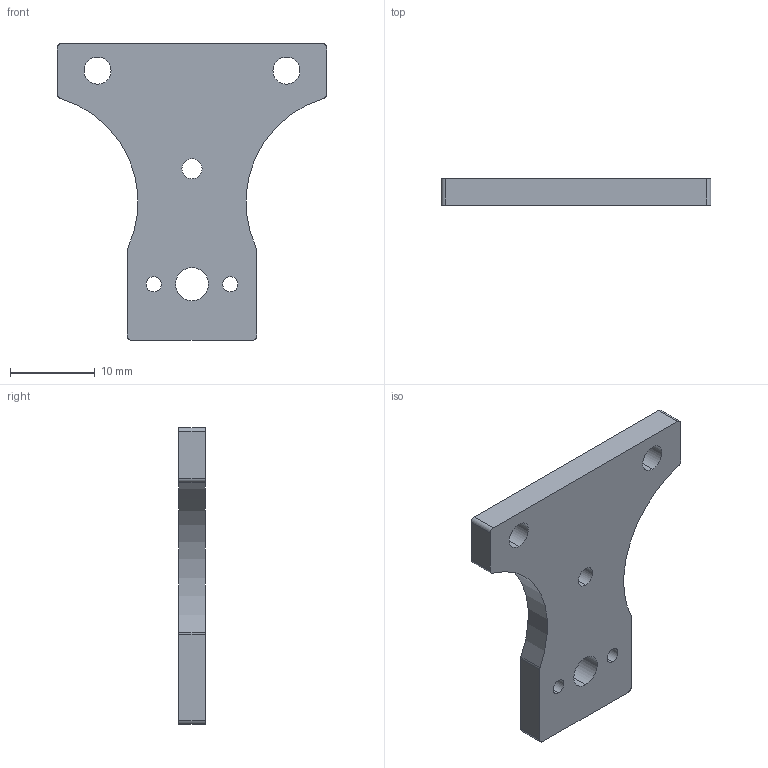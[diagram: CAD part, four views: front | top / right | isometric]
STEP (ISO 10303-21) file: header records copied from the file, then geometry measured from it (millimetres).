
FILE_DESCRIPTION (( 'STEP AP214' ), '1' );
FILE_NAME ('drive shaft support.STEP', '2019-10-04T00:32:41', ( 'John' ), ( 'Not Good' ), 'SwSTEP 2.0', 'SolidWorks 2008', '' );
FILE_SCHEMA (( 'AUTOMOTIVE_DESIGN' ));
Length unit declared in the file: inch
Products named in the file (1): drive shaft support
Bounding box: 31.75 x 3.17 x 34.92 mm (x, y, z)
Volume: 1967.1 mm3; surface area: 1797.7 mm2
Topology: 1 solids, 1 shells, 30 faces, 84 edges, 56 vertices
Faces by surface type: cylinder 22, plane 8
Entity records: 1342 total; most frequent: DIRECTION 190, CARTESIAN_POINT 171, ORIENTED_EDGE 168, EDGE_CURVE 84, AXIS2_PLACEMENT_3D 75, VERTEX_POINT 56, CIRCLE 44, EDGE_LOOP 42
